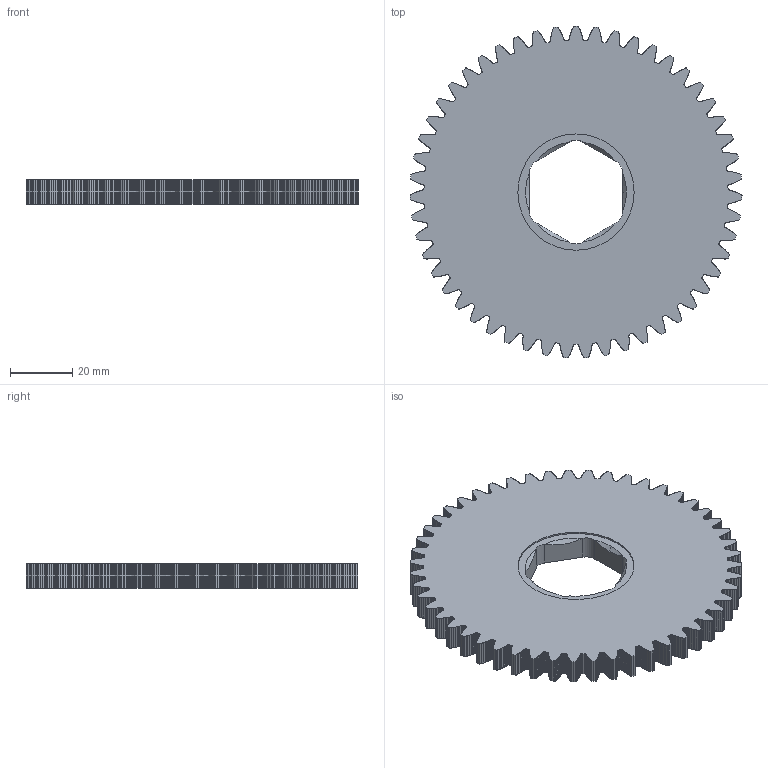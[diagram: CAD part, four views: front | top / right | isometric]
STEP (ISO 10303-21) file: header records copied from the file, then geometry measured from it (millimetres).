
FILE_DESCRIPTION (( 'STEP AP214' ), '1' );
FILE_NAME ('10133V000_Zahnrad_Z51_m2_Index_1.STEP', '2014-04-25T12:07:43', ( 'Admin' ), ( '' ), 'SwSTEP 2.0', 'SolidWorks 2013', '' );
FILE_SCHEMA (( 'AUTOMOTIVE_DESIGN' ));
Length unit declared in the file: millimetre
Products named in the file (1): 10133V000_Zahnrad_Z51_m2_Index_1
Bounding box: 107.01 x 106.97 x 8 mm (x, y, z)
Volume: 59932.6 mm3; surface area: 20833.6 mm2
Topology: 1 solids, 1 shells, 2405 faces, 7206 edges, 4804 vertices
Faces by surface type: cylinder 1981, plane 417, cone 7
Entity records: 83372 total; most frequent: DIRECTION 15980, CARTESIAN_POINT 14495, ORIENTED_EDGE 14412, EDGE_CURVE 7206, AXIS2_PLACEMENT_3D 6375, VERTEX_POINT 4804, CIRCLE 3969, VECTOR 3230
